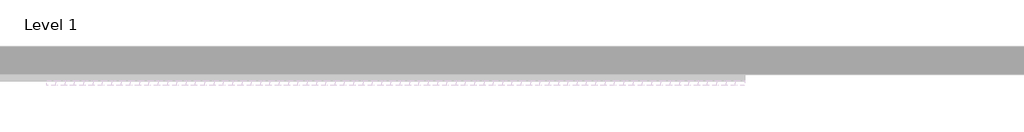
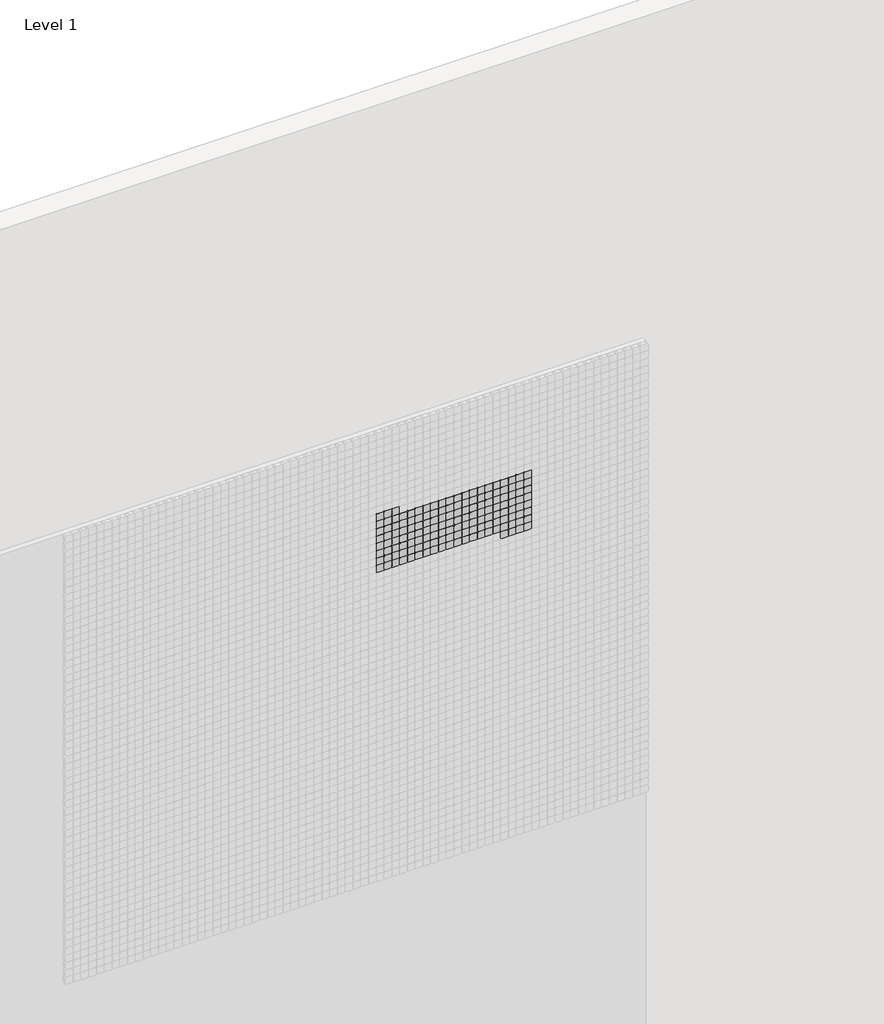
# One storey, part 50 of 71: 147 proxies.
"""IFC4 building model written with IfcOpenShell, lengths in millimetres."""

from ifc_helpers import new_model, si_unit, origin, place, context, project, spatial, transform, mapped, element, save
from components import generic_models_afde289c

model = new_model("IFC4")

# Units and contexts
model_context = context("Model", 3, world=origin())
ifc_project = project(units=[si_unit("LENGTHUNIT", "METRE", prefix="MILLI")], contexts=[model_context])

# Site, building, storey
site = spatial("IfcSite", under=ifc_project)
building = spatial("IfcBuilding", under=site)
storey = spatial("IfcBuildingStorey", under=building, Name="Level 1", Elevation=0.0)

# Proxies
placement = place(None, origin())
generic_models_shape = generic_models_afde289c(model_context)
element("IfcBuildingElementProxy", 1, Name="Pixel_M : Pixel_M", ObjectType="Pixel_M : Pixel_M", at=placement, inside=storey, context=model_context, shape_type="MappedRepresentation", body=[
    mapped(generic_models_shape, transform((8112.4280941, -75.0, 5416.3566215), x_axis=(1.0, 0.0, 0.0), y_axis=(0.0, 0.0, 1.0), z_axis=(0.0, -1.0, 0.0))),
])
element("IfcBuildingElementProxy", 2, Name="Pixel_M : Pixel_M", ObjectType="Pixel_M : Pixel_M", at=placement, inside=storey, context=model_context, shape_type="MappedRepresentation", body=[
    mapped(generic_models_shape, transform((8062.4280941, -75.0, 5416.3566215), x_axis=(1.0, 0.0, 0.0), y_axis=(0.0, 0.0, 1.0), z_axis=(0.0, -1.0, 0.0))),
])
element("IfcBuildingElementProxy", 3, Name="Pixel_M : Pixel_M", ObjectType="Pixel_M : Pixel_M", at=placement, inside=storey, context=model_context, shape_type="MappedRepresentation", body=[
    mapped(generic_models_shape, transform((8012.4280941, -75.0, 5416.3566215), x_axis=(1.0, 0.0, 0.0), y_axis=(0.0, 0.0, 1.0), z_axis=(0.0, -1.0, 0.0))),
])
element("IfcBuildingElementProxy", 4, Name="Pixel_M : Pixel_M", ObjectType="Pixel_M : Pixel_M", at=placement, inside=storey, context=model_context, shape_type="MappedRepresentation", body=[
    mapped(generic_models_shape, transform((8962.4280941, -75.0, 5366.3566215), x_axis=(1.0, 0.0, 0.0), y_axis=(0.0, 0.0, 1.0), z_axis=(0.0, -1.0, 0.0))),
])
element("IfcBuildingElementProxy", 5, Name="Pixel_M : Pixel_M", ObjectType="Pixel_M : Pixel_M", at=placement, inside=storey, context=model_context, shape_type="MappedRepresentation", body=[
    mapped(generic_models_shape, transform((8912.4280941, -75.0, 5366.3566215), x_axis=(1.0, 0.0, 0.0), y_axis=(0.0, 0.0, 1.0), z_axis=(0.0, -1.0, 0.0))),
])
element("IfcBuildingElementProxy", 6, Name="Pixel_M : Pixel_M", ObjectType="Pixel_M : Pixel_M", at=placement, inside=storey, context=model_context, shape_type="MappedRepresentation", body=[
    mapped(generic_models_shape, transform((8862.4280941, -75.0, 5366.3566215), x_axis=(1.0, 0.0, 0.0), y_axis=(0.0, 0.0, 1.0), z_axis=(0.0, -1.0, 0.0))),
])
element("IfcBuildingElementProxy", 7, Name="Pixel_M : Pixel_M", ObjectType="Pixel_M : Pixel_M", at=placement, inside=storey, context=model_context, shape_type="MappedRepresentation", body=[
    mapped(generic_models_shape, transform((8812.4280941, -75.0, 5366.3566215), x_axis=(1.0, 0.0, 0.0), y_axis=(0.0, 0.0, 1.0), z_axis=(0.0, -1.0, 0.0))),
])
element("IfcBuildingElementProxy", 8, Name="Pixel_M : Pixel_M", ObjectType="Pixel_M : Pixel_M", at=placement, inside=storey, context=model_context, shape_type="MappedRepresentation", body=[
    mapped(generic_models_shape, transform((8762.4280941, -75.0, 5366.3566215), x_axis=(1.0, 0.0, 0.0), y_axis=(0.0, 0.0, 1.0), z_axis=(0.0, -1.0, 0.0))),
])
element("IfcBuildingElementProxy", 9, Name="Pixel_M : Pixel_M", ObjectType="Pixel_M : Pixel_M", at=placement, inside=storey, context=model_context, shape_type="MappedRepresentation", body=[
    mapped(generic_models_shape, transform((8712.4280941, -75.0, 5366.3566215), x_axis=(1.0, 0.0, 0.0), y_axis=(0.0, 0.0, 1.0), z_axis=(0.0, -1.0, 0.0))),
])
element("IfcBuildingElementProxy", 10, Name="Pixel_M : Pixel_M", ObjectType="Pixel_M : Pixel_M", at=placement, inside=storey, context=model_context, shape_type="MappedRepresentation", body=[
    mapped(generic_models_shape, transform((8662.4280941, -75.0, 5366.3566215), x_axis=(1.0, 0.0, 0.0), y_axis=(0.0, 0.0, 1.0), z_axis=(0.0, -1.0, 0.0))),
])
element("IfcBuildingElementProxy", 11, Name="Pixel_M : Pixel_M", ObjectType="Pixel_M : Pixel_M", at=placement, inside=storey, context=model_context, shape_type="MappedRepresentation", body=[
    mapped(generic_models_shape, transform((8612.4280941, -75.0, 5366.3566215), x_axis=(1.0, 0.0, 0.0), y_axis=(0.0, 0.0, 1.0), z_axis=(0.0, -1.0, 0.0))),
])
element("IfcBuildingElementProxy", 12, Name="Pixel_M : Pixel_M", ObjectType="Pixel_M : Pixel_M", at=placement, inside=storey, context=model_context, shape_type="MappedRepresentation", body=[
    mapped(generic_models_shape, transform((8562.4280941, -75.0, 5366.3566215), x_axis=(1.0, 0.0, 0.0), y_axis=(0.0, 0.0, 1.0), z_axis=(0.0, -1.0, 0.0))),
])
element("IfcBuildingElementProxy", 13, Name="Pixel_M : Pixel_M", ObjectType="Pixel_M : Pixel_M", at=placement, inside=storey, context=model_context, shape_type="MappedRepresentation", body=[
    mapped(generic_models_shape, transform((8512.4280941, -75.0, 5366.3566215), x_axis=(1.0, 0.0, 0.0), y_axis=(0.0, 0.0, 1.0), z_axis=(0.0, -1.0, 0.0))),
])
element("IfcBuildingElementProxy", 14, Name="Pixel_M : Pixel_M", ObjectType="Pixel_M : Pixel_M", at=placement, inside=storey, context=model_context, shape_type="MappedRepresentation", body=[
    mapped(generic_models_shape, transform((8462.4280941, -75.0, 5366.3566215), x_axis=(1.0, 0.0, 0.0), y_axis=(0.0, 0.0, 1.0), z_axis=(0.0, -1.0, 0.0))),
])
element("IfcBuildingElementProxy", 15, Name="Pixel_M : Pixel_M", ObjectType="Pixel_M : Pixel_M", at=placement, inside=storey, context=model_context, shape_type="MappedRepresentation", body=[
    mapped(generic_models_shape, transform((8412.4280941, -75.0, 5366.3566215), x_axis=(1.0, 0.0, 0.0), y_axis=(0.0, 0.0, 1.0), z_axis=(0.0, -1.0, 0.0))),
])
element("IfcBuildingElementProxy", 16, Name="Pixel_M : Pixel_M", ObjectType="Pixel_M : Pixel_M", at=placement, inside=storey, context=model_context, shape_type="MappedRepresentation", body=[
    mapped(generic_models_shape, transform((8362.4280941, -75.0, 5366.3566215), x_axis=(1.0, 0.0, 0.0), y_axis=(0.0, 0.0, 1.0), z_axis=(0.0, -1.0, 0.0))),
])
element("IfcBuildingElementProxy", 17, Name="Pixel_M : Pixel_M", ObjectType="Pixel_M : Pixel_M", at=placement, inside=storey, context=model_context, shape_type="MappedRepresentation", body=[
    mapped(generic_models_shape, transform((8312.4280941, -75.0, 5366.3566215), x_axis=(1.0, 0.0, 0.0), y_axis=(0.0, 0.0, 1.0), z_axis=(0.0, -1.0, 0.0))),
])
element("IfcBuildingElementProxy", 18, Name="Pixel_M : Pixel_M", ObjectType="Pixel_M : Pixel_M", at=placement, inside=storey, context=model_context, shape_type="MappedRepresentation", body=[
    mapped(generic_models_shape, transform((8262.4280941, -75.0, 5366.3566215), x_axis=(1.0, 0.0, 0.0), y_axis=(0.0, 0.0, 1.0), z_axis=(0.0, -1.0, 0.0))),
])
element("IfcBuildingElementProxy", 19, Name="Pixel_M : Pixel_M", ObjectType="Pixel_M : Pixel_M", at=placement, inside=storey, context=model_context, shape_type="MappedRepresentation", body=[
    mapped(generic_models_shape, transform((8212.4280941, -75.0, 5366.3566215), x_axis=(1.0, 0.0, 0.0), y_axis=(0.0, 0.0, 1.0), z_axis=(0.0, -1.0, 0.0))),
])
element("IfcBuildingElementProxy", 20, Name="Pixel_M : Pixel_M", ObjectType="Pixel_M : Pixel_M", at=placement, inside=storey, context=model_context, shape_type="MappedRepresentation", body=[
    mapped(generic_models_shape, transform((8162.4280941, -75.0, 5366.3566215), x_axis=(1.0, 0.0, 0.0), y_axis=(0.0, 0.0, 1.0), z_axis=(0.0, -1.0, 0.0))),
])
element("IfcBuildingElementProxy", 21, Name="Pixel_M : Pixel_M", ObjectType="Pixel_M : Pixel_M", at=placement, inside=storey, context=model_context, shape_type="MappedRepresentation", body=[
    mapped(generic_models_shape, transform((8112.4280941, -75.0, 5366.3566215), x_axis=(1.0, 0.0, 0.0), y_axis=(0.0, 0.0, 1.0), z_axis=(0.0, -1.0, 0.0))),
])
element("IfcBuildingElementProxy", 22, Name="Pixel_M : Pixel_M", ObjectType="Pixel_M : Pixel_M", at=placement, inside=storey, context=model_context, shape_type="MappedRepresentation", body=[
    mapped(generic_models_shape, transform((8062.4280941, -75.0, 5366.3566215), x_axis=(1.0, 0.0, 0.0), y_axis=(0.0, 0.0, 1.0), z_axis=(0.0, -1.0, 0.0))),
])
element("IfcBuildingElementProxy", 23, Name="Pixel_M : Pixel_M", ObjectType="Pixel_M : Pixel_M", at=placement, inside=storey, context=model_context, shape_type="MappedRepresentation", body=[
    mapped(generic_models_shape, transform((8012.4280941, -75.0, 5366.3566215), x_axis=(1.0, 0.0, 0.0), y_axis=(0.0, 0.0, 1.0), z_axis=(0.0, -1.0, 0.0))),
])
element("IfcBuildingElementProxy", 24, Name="Pixel_M : Pixel_M", ObjectType="Pixel_M : Pixel_M", at=placement, inside=storey, context=model_context, shape_type="MappedRepresentation", body=[
    mapped(generic_models_shape, transform((8962.4280941, -75.0, 5316.3566215), x_axis=(1.0, 0.0, 0.0), y_axis=(0.0, 0.0, 1.0), z_axis=(0.0, -1.0, 0.0))),
])
element("IfcBuildingElementProxy", 25, Name="Pixel_M : Pixel_M", ObjectType="Pixel_M : Pixel_M", at=placement, inside=storey, context=model_context, shape_type="MappedRepresentation", body=[
    mapped(generic_models_shape, transform((8912.4280941, -75.0, 5316.3566215), x_axis=(1.0, 0.0, 0.0), y_axis=(0.0, 0.0, 1.0), z_axis=(0.0, -1.0, 0.0))),
])
element("IfcBuildingElementProxy", 26, Name="Pixel_M : Pixel_M", ObjectType="Pixel_M : Pixel_M", at=placement, inside=storey, context=model_context, shape_type="MappedRepresentation", body=[
    mapped(generic_models_shape, transform((8862.4280941, -75.0, 5316.3566215), x_axis=(1.0, 0.0, 0.0), y_axis=(0.0, 0.0, 1.0), z_axis=(0.0, -1.0, 0.0))),
])
element("IfcBuildingElementProxy", 27, Name="Pixel_M : Pixel_M", ObjectType="Pixel_M : Pixel_M", at=placement, inside=storey, context=model_context, shape_type="MappedRepresentation", body=[
    mapped(generic_models_shape, transform((8812.4280941, -75.0, 5316.3566215), x_axis=(1.0, 0.0, 0.0), y_axis=(0.0, 0.0, 1.0), z_axis=(0.0, -1.0, 0.0))),
])
element("IfcBuildingElementProxy", 28, Name="Pixel_M : Pixel_M", ObjectType="Pixel_M : Pixel_M", at=placement, inside=storey, context=model_context, shape_type="MappedRepresentation", body=[
    mapped(generic_models_shape, transform((8762.4280941, -75.0, 5316.3566215), x_axis=(1.0, 0.0, 0.0), y_axis=(0.0, 0.0, 1.0), z_axis=(0.0, -1.0, 0.0))),
])
element("IfcBuildingElementProxy", 29, Name="Pixel_M : Pixel_M", ObjectType="Pixel_M : Pixel_M", at=placement, inside=storey, context=model_context, shape_type="MappedRepresentation", body=[
    mapped(generic_models_shape, transform((8712.4280941, -75.0, 5316.3566215), x_axis=(1.0, 0.0, 0.0), y_axis=(0.0, 0.0, 1.0), z_axis=(0.0, -1.0, 0.0))),
])
element("IfcBuildingElementProxy", 30, Name="Pixel_M : Pixel_M", ObjectType="Pixel_M : Pixel_M", at=placement, inside=storey, context=model_context, shape_type="MappedRepresentation", body=[
    mapped(generic_models_shape, transform((8662.4280941, -75.0, 5316.3566215), x_axis=(1.0, 0.0, 0.0), y_axis=(0.0, 0.0, 1.0), z_axis=(0.0, -1.0, 0.0))),
])
element("IfcBuildingElementProxy", 31, Name="Pixel_M : Pixel_M", ObjectType="Pixel_M : Pixel_M", at=placement, inside=storey, context=model_context, shape_type="MappedRepresentation", body=[
    mapped(generic_models_shape, transform((8612.4280941, -75.0, 5316.3566215), x_axis=(1.0, 0.0, 0.0), y_axis=(0.0, 0.0, 1.0), z_axis=(0.0, -1.0, 0.0))),
])
element("IfcBuildingElementProxy", 32, Name="Pixel_M : Pixel_M", ObjectType="Pixel_M : Pixel_M", at=placement, inside=storey, context=model_context, shape_type="MappedRepresentation", body=[
    mapped(generic_models_shape, transform((8562.4280941, -75.0, 5316.3566215), x_axis=(1.0, 0.0, 0.0), y_axis=(0.0, 0.0, 1.0), z_axis=(0.0, -1.0, 0.0))),
])
element("IfcBuildingElementProxy", 33, Name="Pixel_M : Pixel_M", ObjectType="Pixel_M : Pixel_M", at=placement, inside=storey, context=model_context, shape_type="MappedRepresentation", body=[
    mapped(generic_models_shape, transform((8512.4280941, -75.0, 5316.3566215), x_axis=(1.0, 0.0, 0.0), y_axis=(0.0, 0.0, 1.0), z_axis=(0.0, -1.0, 0.0))),
])
element("IfcBuildingElementProxy", 34, Name="Pixel_M : Pixel_M", ObjectType="Pixel_M : Pixel_M", at=placement, inside=storey, context=model_context, shape_type="MappedRepresentation", body=[
    mapped(generic_models_shape, transform((8462.4280941, -75.0, 5316.3566215), x_axis=(1.0, 0.0, 0.0), y_axis=(0.0, 0.0, 1.0), z_axis=(0.0, -1.0, 0.0))),
])
element("IfcBuildingElementProxy", 35, Name="Pixel_M : Pixel_M", ObjectType="Pixel_M : Pixel_M", at=placement, inside=storey, context=model_context, shape_type="MappedRepresentation", body=[
    mapped(generic_models_shape, transform((8412.4280941, -75.0, 5316.3566215), x_axis=(1.0, 0.0, 0.0), y_axis=(0.0, 0.0, 1.0), z_axis=(0.0, -1.0, 0.0))),
])
element("IfcBuildingElementProxy", 36, Name="Pixel_M : Pixel_M", ObjectType="Pixel_M : Pixel_M", at=placement, inside=storey, context=model_context, shape_type="MappedRepresentation", body=[
    mapped(generic_models_shape, transform((8362.4280941, -75.0, 5316.3566215), x_axis=(1.0, 0.0, 0.0), y_axis=(0.0, 0.0, 1.0), z_axis=(0.0, -1.0, 0.0))),
])
element("IfcBuildingElementProxy", 37, Name="Pixel_M : Pixel_M", ObjectType="Pixel_M : Pixel_M", at=placement, inside=storey, context=model_context, shape_type="MappedRepresentation", body=[
    mapped(generic_models_shape, transform((8312.4280941, -75.0, 5316.3566215), x_axis=(1.0, 0.0, 0.0), y_axis=(0.0, 0.0, 1.0), z_axis=(0.0, -1.0, 0.0))),
])
element("IfcBuildingElementProxy", 38, Name="Pixel_M : Pixel_M", ObjectType="Pixel_M : Pixel_M", at=placement, inside=storey, context=model_context, shape_type="MappedRepresentation", body=[
    mapped(generic_models_shape, transform((8262.4280941, -75.0, 5316.3566215), x_axis=(1.0, 0.0, 0.0), y_axis=(0.0, 0.0, 1.0), z_axis=(0.0, -1.0, 0.0))),
])
element("IfcBuildingElementProxy", 39, Name="Pixel_M : Pixel_M", ObjectType="Pixel_M : Pixel_M", at=placement, inside=storey, context=model_context, shape_type="MappedRepresentation", body=[
    mapped(generic_models_shape, transform((8212.4280941, -75.0, 5316.3566215), x_axis=(1.0, 0.0, 0.0), y_axis=(0.0, 0.0, 1.0), z_axis=(0.0, -1.0, 0.0))),
])
element("IfcBuildingElementProxy", 40, Name="Pixel_M : Pixel_M", ObjectType="Pixel_M : Pixel_M", at=placement, inside=storey, context=model_context, shape_type="MappedRepresentation", body=[
    mapped(generic_models_shape, transform((8162.4280941, -75.0, 5316.3566215), x_axis=(1.0, 0.0, 0.0), y_axis=(0.0, 0.0, 1.0), z_axis=(0.0, -1.0, 0.0))),
])
element("IfcBuildingElementProxy", 41, Name="Pixel_M : Pixel_M", ObjectType="Pixel_M : Pixel_M", at=placement, inside=storey, context=model_context, shape_type="MappedRepresentation", body=[
    mapped(generic_models_shape, transform((8112.4280941, -75.0, 5316.3566215), x_axis=(1.0, 0.0, 0.0), y_axis=(0.0, 0.0, 1.0), z_axis=(0.0, -1.0, 0.0))),
])
element("IfcBuildingElementProxy", 42, Name="Pixel_M : Pixel_M", ObjectType="Pixel_M : Pixel_M", at=placement, inside=storey, context=model_context, shape_type="MappedRepresentation", body=[
    mapped(generic_models_shape, transform((8062.4280941, -75.0, 5316.3566215), x_axis=(1.0, 0.0, 0.0), y_axis=(0.0, 0.0, 1.0), z_axis=(0.0, -1.0, 0.0))),
])
element("IfcBuildingElementProxy", 43, Name="Pixel_M : Pixel_M", ObjectType="Pixel_M : Pixel_M", at=placement, inside=storey, context=model_context, shape_type="MappedRepresentation", body=[
    mapped(generic_models_shape, transform((8012.4280941, -75.0, 5316.3566215), x_axis=(1.0, 0.0, 0.0), y_axis=(0.0, 0.0, 1.0), z_axis=(0.0, -1.0, 0.0))),
])
element("IfcBuildingElementProxy", 44, Name="Pixel_M : Pixel_M", ObjectType="Pixel_M : Pixel_M", at=placement, inside=storey, context=model_context, shape_type="MappedRepresentation", body=[
    mapped(generic_models_shape, transform((8962.4280941, -75.0, 5266.3566215), x_axis=(1.0, 0.0, 0.0), y_axis=(0.0, 0.0, 1.0), z_axis=(0.0, -1.0, 0.0))),
])
element("IfcBuildingElementProxy", 45, Name="Pixel_M : Pixel_M", ObjectType="Pixel_M : Pixel_M", at=placement, inside=storey, context=model_context, shape_type="MappedRepresentation", body=[
    mapped(generic_models_shape, transform((8912.4280941, -75.0, 5266.3566215), x_axis=(1.0, 0.0, 0.0), y_axis=(0.0, 0.0, 1.0), z_axis=(0.0, -1.0, 0.0))),
])
element("IfcBuildingElementProxy", 46, Name="Pixel_M : Pixel_M", ObjectType="Pixel_M : Pixel_M", at=placement, inside=storey, context=model_context, shape_type="MappedRepresentation", body=[
    mapped(generic_models_shape, transform((8862.4280941, -75.0, 5266.3566215), x_axis=(1.0, 0.0, 0.0), y_axis=(0.0, 0.0, 1.0), z_axis=(0.0, -1.0, 0.0))),
])
element("IfcBuildingElementProxy", 47, Name="Pixel_M : Pixel_M", ObjectType="Pixel_M : Pixel_M", at=placement, inside=storey, context=model_context, shape_type="MappedRepresentation", body=[
    mapped(generic_models_shape, transform((8812.4280941, -75.0, 5266.3566215), x_axis=(1.0, 0.0, 0.0), y_axis=(0.0, 0.0, 1.0), z_axis=(0.0, -1.0, 0.0))),
])
element("IfcBuildingElementProxy", 48, Name="Pixel_M : Pixel_M", ObjectType="Pixel_M : Pixel_M", at=placement, inside=storey, context=model_context, shape_type="MappedRepresentation", body=[
    mapped(generic_models_shape, transform((8762.4280941, -75.0, 5266.3566215), x_axis=(1.0, 0.0, 0.0), y_axis=(0.0, 0.0, 1.0), z_axis=(0.0, -1.0, 0.0))),
])
element("IfcBuildingElementProxy", 49, Name="Pixel_M : Pixel_M", ObjectType="Pixel_M : Pixel_M", at=placement, inside=storey, context=model_context, shape_type="MappedRepresentation", body=[
    mapped(generic_models_shape, transform((8712.4280941, -75.0, 5266.3566215), x_axis=(1.0, 0.0, 0.0), y_axis=(0.0, 0.0, 1.0), z_axis=(0.0, -1.0, 0.0))),
])
element("IfcBuildingElementProxy", 50, Name="Pixel_M : Pixel_M", ObjectType="Pixel_M : Pixel_M", at=placement, inside=storey, context=model_context, shape_type="MappedRepresentation", body=[
    mapped(generic_models_shape, transform((8662.4280941, -75.0, 5266.3566215), x_axis=(1.0, 0.0, 0.0), y_axis=(0.0, 0.0, 1.0), z_axis=(0.0, -1.0, 0.0))),
])
element("IfcBuildingElementProxy", 51, Name="Pixel_M : Pixel_M", ObjectType="Pixel_M : Pixel_M", at=placement, inside=storey, context=model_context, shape_type="MappedRepresentation", body=[
    mapped(generic_models_shape, transform((8612.4280941, -75.0, 5266.3566215), x_axis=(1.0, 0.0, 0.0), y_axis=(0.0, 0.0, 1.0), z_axis=(0.0, -1.0, 0.0))),
])
element("IfcBuildingElementProxy", 52, Name="Pixel_M : Pixel_M", ObjectType="Pixel_M : Pixel_M", at=placement, inside=storey, context=model_context, shape_type="MappedRepresentation", body=[
    mapped(generic_models_shape, transform((8562.4280941, -75.0, 5266.3566215), x_axis=(1.0, 0.0, 0.0), y_axis=(0.0, 0.0, 1.0), z_axis=(0.0, -1.0, 0.0))),
])
element("IfcBuildingElementProxy", 53, Name="Pixel_M : Pixel_M", ObjectType="Pixel_M : Pixel_M", at=placement, inside=storey, context=model_context, shape_type="MappedRepresentation", body=[
    mapped(generic_models_shape, transform((8512.4280941, -75.0, 5266.3566215), x_axis=(1.0, 0.0, 0.0), y_axis=(0.0, 0.0, 1.0), z_axis=(0.0, -1.0, 0.0))),
])
element("IfcBuildingElementProxy", 54, Name="Pixel_M : Pixel_M", ObjectType="Pixel_M : Pixel_M", at=placement, inside=storey, context=model_context, shape_type="MappedRepresentation", body=[
    mapped(generic_models_shape, transform((8462.4280941, -75.0, 5266.3566215), x_axis=(1.0, 0.0, 0.0), y_axis=(0.0, 0.0, 1.0), z_axis=(0.0, -1.0, 0.0))),
])
element("IfcBuildingElementProxy", 55, Name="Pixel_M : Pixel_M", ObjectType="Pixel_M : Pixel_M", at=placement, inside=storey, context=model_context, shape_type="MappedRepresentation", body=[
    mapped(generic_models_shape, transform((8412.4280941, -75.0, 5266.3566215), x_axis=(1.0, 0.0, 0.0), y_axis=(0.0, 0.0, 1.0), z_axis=(0.0, -1.0, 0.0))),
])
element("IfcBuildingElementProxy", 56, Name="Pixel_M : Pixel_M", ObjectType="Pixel_M : Pixel_M", at=placement, inside=storey, context=model_context, shape_type="MappedRepresentation", body=[
    mapped(generic_models_shape, transform((8362.4280941, -75.0, 5266.3566215), x_axis=(1.0, 0.0, 0.0), y_axis=(0.0, 0.0, 1.0), z_axis=(0.0, -1.0, 0.0))),
])
element("IfcBuildingElementProxy", 57, Name="Pixel_M : Pixel_M", ObjectType="Pixel_M : Pixel_M", at=placement, inside=storey, context=model_context, shape_type="MappedRepresentation", body=[
    mapped(generic_models_shape, transform((8312.4280941, -75.0, 5266.3566215), x_axis=(1.0, 0.0, 0.0), y_axis=(0.0, 0.0, 1.0), z_axis=(0.0, -1.0, 0.0))),
])
element("IfcBuildingElementProxy", 58, Name="Pixel_M : Pixel_M", ObjectType="Pixel_M : Pixel_M", at=placement, inside=storey, context=model_context, shape_type="MappedRepresentation", body=[
    mapped(generic_models_shape, transform((8262.4280941, -75.0, 5266.3566215), x_axis=(1.0, 0.0, 0.0), y_axis=(0.0, 0.0, 1.0), z_axis=(0.0, -1.0, 0.0))),
])
element("IfcBuildingElementProxy", 59, Name="Pixel_M : Pixel_M", ObjectType="Pixel_M : Pixel_M", at=placement, inside=storey, context=model_context, shape_type="MappedRepresentation", body=[
    mapped(generic_models_shape, transform((8212.4280941, -75.0, 5266.3566215), x_axis=(1.0, 0.0, 0.0), y_axis=(0.0, 0.0, 1.0), z_axis=(0.0, -1.0, 0.0))),
])
element("IfcBuildingElementProxy", 60, Name="Pixel_M : Pixel_M", ObjectType="Pixel_M : Pixel_M", at=placement, inside=storey, context=model_context, shape_type="MappedRepresentation", body=[
    mapped(generic_models_shape, transform((8162.4280941, -75.0, 5266.3566215), x_axis=(1.0, 0.0, 0.0), y_axis=(0.0, 0.0, 1.0), z_axis=(0.0, -1.0, 0.0))),
])
element("IfcBuildingElementProxy", 61, Name="Pixel_M : Pixel_M", ObjectType="Pixel_M : Pixel_M", at=placement, inside=storey, context=model_context, shape_type="MappedRepresentation", body=[
    mapped(generic_models_shape, transform((8112.4280941, -75.0, 5266.3566215), x_axis=(1.0, 0.0, 0.0), y_axis=(0.0, 0.0, 1.0), z_axis=(0.0, -1.0, 0.0))),
])
element("IfcBuildingElementProxy", 62, Name="Pixel_M : Pixel_M", ObjectType="Pixel_M : Pixel_M", at=placement, inside=storey, context=model_context, shape_type="MappedRepresentation", body=[
    mapped(generic_models_shape, transform((8062.4280941, -75.0, 5266.3566215), x_axis=(1.0, 0.0, 0.0), y_axis=(0.0, 0.0, 1.0), z_axis=(0.0, -1.0, 0.0))),
])
element("IfcBuildingElementProxy", 63, Name="Pixel_M : Pixel_M", ObjectType="Pixel_M : Pixel_M", at=placement, inside=storey, context=model_context, shape_type="MappedRepresentation", body=[
    mapped(generic_models_shape, transform((8012.4280941, -75.0, 5266.3566215), x_axis=(1.0, 0.0, 0.0), y_axis=(0.0, 0.0, 1.0), z_axis=(0.0, -1.0, 0.0))),
])
element("IfcBuildingElementProxy", 64, Name="Pixel_M : Pixel_M", ObjectType="Pixel_M : Pixel_M", at=placement, inside=storey, context=model_context, shape_type="MappedRepresentation", body=[
    mapped(generic_models_shape, transform((8962.4280941, -75.0, 5216.3566215), x_axis=(1.0, 0.0, 0.0), y_axis=(0.0, 0.0, 1.0), z_axis=(0.0, -1.0, 0.0))),
])
element("IfcBuildingElementProxy", 65, Name="Pixel_M : Pixel_M", ObjectType="Pixel_M : Pixel_M", at=placement, inside=storey, context=model_context, shape_type="MappedRepresentation", body=[
    mapped(generic_models_shape, transform((8912.4280941, -75.0, 5216.3566215), x_axis=(1.0, 0.0, 0.0), y_axis=(0.0, 0.0, 1.0), z_axis=(0.0, -1.0, 0.0))),
])
element("IfcBuildingElementProxy", 66, Name="Pixel_M : Pixel_M", ObjectType="Pixel_M : Pixel_M", at=placement, inside=storey, context=model_context, shape_type="MappedRepresentation", body=[
    mapped(generic_models_shape, transform((8862.4280941, -75.0, 5216.3566215), x_axis=(1.0, 0.0, 0.0), y_axis=(0.0, 0.0, 1.0), z_axis=(0.0, -1.0, 0.0))),
])
element("IfcBuildingElementProxy", 67, Name="Pixel_M : Pixel_M", ObjectType="Pixel_M : Pixel_M", at=placement, inside=storey, context=model_context, shape_type="MappedRepresentation", body=[
    mapped(generic_models_shape, transform((8812.4280941, -75.0, 5216.3566215), x_axis=(1.0, 0.0, 0.0), y_axis=(0.0, 0.0, 1.0), z_axis=(0.0, -1.0, 0.0))),
])
element("IfcBuildingElementProxy", 68, Name="Pixel_M : Pixel_M", ObjectType="Pixel_M : Pixel_M", at=placement, inside=storey, context=model_context, shape_type="MappedRepresentation", body=[
    mapped(generic_models_shape, transform((8762.4280941, -75.0, 5216.3566215), x_axis=(1.0, 0.0, 0.0), y_axis=(0.0, 0.0, 1.0), z_axis=(0.0, -1.0, 0.0))),
])
element("IfcBuildingElementProxy", 69, Name="Pixel_M : Pixel_M", ObjectType="Pixel_M : Pixel_M", at=placement, inside=storey, context=model_context, shape_type="MappedRepresentation", body=[
    mapped(generic_models_shape, transform((8712.4280941, -75.0, 5216.3566215), x_axis=(1.0, 0.0, 0.0), y_axis=(0.0, 0.0, 1.0), z_axis=(0.0, -1.0, 0.0))),
])
element("IfcBuildingElementProxy", 70, Name="Pixel_M : Pixel_M", ObjectType="Pixel_M : Pixel_M", at=placement, inside=storey, context=model_context, shape_type="MappedRepresentation", body=[
    mapped(generic_models_shape, transform((8662.4280941, -75.0, 5216.3566215), x_axis=(1.0, 0.0, 0.0), y_axis=(0.0, 0.0, 1.0), z_axis=(0.0, -1.0, 0.0))),
])
element("IfcBuildingElementProxy", 71, Name="Pixel_M : Pixel_M", ObjectType="Pixel_M : Pixel_M", at=placement, inside=storey, context=model_context, shape_type="MappedRepresentation", body=[
    mapped(generic_models_shape, transform((8612.4280941, -75.0, 5216.3566215), x_axis=(1.0, 0.0, 0.0), y_axis=(0.0, 0.0, 1.0), z_axis=(0.0, -1.0, 0.0))),
])
element("IfcBuildingElementProxy", 72, Name="Pixel_M : Pixel_M", ObjectType="Pixel_M : Pixel_M", at=placement, inside=storey, context=model_context, shape_type="MappedRepresentation", body=[
    mapped(generic_models_shape, transform((8562.4280941, -75.0, 5216.3566215), x_axis=(1.0, 0.0, 0.0), y_axis=(0.0, 0.0, 1.0), z_axis=(0.0, -1.0, 0.0))),
])
element("IfcBuildingElementProxy", 73, Name="Pixel_M : Pixel_M", ObjectType="Pixel_M : Pixel_M", at=placement, inside=storey, context=model_context, shape_type="MappedRepresentation", body=[
    mapped(generic_models_shape, transform((8512.4280941, -75.0, 5216.3566215), x_axis=(1.0, 0.0, 0.0), y_axis=(0.0, 0.0, 1.0), z_axis=(0.0, -1.0, 0.0))),
])
element("IfcBuildingElementProxy", 74, Name="Pixel_M : Pixel_M", ObjectType="Pixel_M : Pixel_M", at=placement, inside=storey, context=model_context, shape_type="MappedRepresentation", body=[
    mapped(generic_models_shape, transform((8462.4280941, -75.0, 5216.3566215), x_axis=(1.0, 0.0, 0.0), y_axis=(0.0, 0.0, 1.0), z_axis=(0.0, -1.0, 0.0))),
])
element("IfcBuildingElementProxy", 75, Name="Pixel_M : Pixel_M", ObjectType="Pixel_M : Pixel_M", at=placement, inside=storey, context=model_context, shape_type="MappedRepresentation", body=[
    mapped(generic_models_shape, transform((8412.4280941, -75.0, 5216.3566215), x_axis=(1.0, 0.0, 0.0), y_axis=(0.0, 0.0, 1.0), z_axis=(0.0, -1.0, 0.0))),
])
element("IfcBuildingElementProxy", 76, Name="Pixel_M : Pixel_M", ObjectType="Pixel_M : Pixel_M", at=placement, inside=storey, context=model_context, shape_type="MappedRepresentation", body=[
    mapped(generic_models_shape, transform((8362.4280941, -75.0, 5216.3566215), x_axis=(1.0, 0.0, 0.0), y_axis=(0.0, 0.0, 1.0), z_axis=(0.0, -1.0, 0.0))),
])
element("IfcBuildingElementProxy", 77, Name="Pixel_M : Pixel_M", ObjectType="Pixel_M : Pixel_M", at=placement, inside=storey, context=model_context, shape_type="MappedRepresentation", body=[
    mapped(generic_models_shape, transform((8312.4280941, -75.0, 5216.3566215), x_axis=(1.0, 0.0, 0.0), y_axis=(0.0, 0.0, 1.0), z_axis=(0.0, -1.0, 0.0))),
])
element("IfcBuildingElementProxy", 78, Name="Pixel_M : Pixel_M", ObjectType="Pixel_M : Pixel_M", at=placement, inside=storey, context=model_context, shape_type="MappedRepresentation", body=[
    mapped(generic_models_shape, transform((8262.4280941, -75.0, 5216.3566215), x_axis=(1.0, 0.0, 0.0), y_axis=(0.0, 0.0, 1.0), z_axis=(0.0, -1.0, 0.0))),
])
element("IfcBuildingElementProxy", 79, Name="Pixel_M : Pixel_M", ObjectType="Pixel_M : Pixel_M", at=placement, inside=storey, context=model_context, shape_type="MappedRepresentation", body=[
    mapped(generic_models_shape, transform((8212.4280941, -75.0, 5216.3566215), x_axis=(1.0, 0.0, 0.0), y_axis=(0.0, 0.0, 1.0), z_axis=(0.0, -1.0, 0.0))),
])
element("IfcBuildingElementProxy", 80, Name="Pixel_M : Pixel_M", ObjectType="Pixel_M : Pixel_M", at=placement, inside=storey, context=model_context, shape_type="MappedRepresentation", body=[
    mapped(generic_models_shape, transform((8162.4280941, -75.0, 5216.3566215), x_axis=(1.0, 0.0, 0.0), y_axis=(0.0, 0.0, 1.0), z_axis=(0.0, -1.0, 0.0))),
])
element("IfcBuildingElementProxy", 81, Name="Pixel_M : Pixel_M", ObjectType="Pixel_M : Pixel_M", at=placement, inside=storey, context=model_context, shape_type="MappedRepresentation", body=[
    mapped(generic_models_shape, transform((8112.4280941, -75.0, 5216.3566215), x_axis=(1.0, 0.0, 0.0), y_axis=(0.0, 0.0, 1.0), z_axis=(0.0, -1.0, 0.0))),
])
element("IfcBuildingElementProxy", 82, Name="Pixel_M : Pixel_M", ObjectType="Pixel_M : Pixel_M", at=placement, inside=storey, context=model_context, shape_type="MappedRepresentation", body=[
    mapped(generic_models_shape, transform((8062.4280941, -75.0, 5216.3566215), x_axis=(1.0, 0.0, 0.0), y_axis=(0.0, 0.0, 1.0), z_axis=(0.0, -1.0, 0.0))),
])
element("IfcBuildingElementProxy", 83, Name="Pixel_M : Pixel_M", ObjectType="Pixel_M : Pixel_M", at=placement, inside=storey, context=model_context, shape_type="MappedRepresentation", body=[
    mapped(generic_models_shape, transform((8012.4280941, -75.0, 5216.3566215), x_axis=(1.0, 0.0, 0.0), y_axis=(0.0, 0.0, 1.0), z_axis=(0.0, -1.0, 0.0))),
])
element("IfcBuildingElementProxy", 84, Name="Pixel_M : Pixel_M", ObjectType="Pixel_M : Pixel_M", at=placement, inside=storey, context=model_context, shape_type="MappedRepresentation", body=[
    mapped(generic_models_shape, transform((8962.4280941, -75.0, 5166.3566215), x_axis=(1.0, 0.0, 0.0), y_axis=(0.0, 0.0, 1.0), z_axis=(0.0, -1.0, 0.0))),
])
element("IfcBuildingElementProxy", 85, Name="Pixel_M : Pixel_M", ObjectType="Pixel_M : Pixel_M", at=placement, inside=storey, context=model_context, shape_type="MappedRepresentation", body=[
    mapped(generic_models_shape, transform((8912.4280941, -75.0, 5166.3566215), x_axis=(1.0, 0.0, 0.0), y_axis=(0.0, 0.0, 1.0), z_axis=(0.0, -1.0, 0.0))),
])
element("IfcBuildingElementProxy", 86, Name="Pixel_M : Pixel_M", ObjectType="Pixel_M : Pixel_M", at=placement, inside=storey, context=model_context, shape_type="MappedRepresentation", body=[
    mapped(generic_models_shape, transform((8862.4280941, -75.0, 5166.3566215), x_axis=(1.0, 0.0, 0.0), y_axis=(0.0, 0.0, 1.0), z_axis=(0.0, -1.0, 0.0))),
])
element("IfcBuildingElementProxy", 87, Name="Pixel_M : Pixel_M", ObjectType="Pixel_M : Pixel_M", at=placement, inside=storey, context=model_context, shape_type="MappedRepresentation", body=[
    mapped(generic_models_shape, transform((8812.4280941, -75.0, 5166.3566215), x_axis=(1.0, 0.0, 0.0), y_axis=(0.0, 0.0, 1.0), z_axis=(0.0, -1.0, 0.0))),
])
element("IfcBuildingElementProxy", 88, Name="Pixel_M : Pixel_M", ObjectType="Pixel_M : Pixel_M", at=placement, inside=storey, context=model_context, shape_type="MappedRepresentation", body=[
    mapped(generic_models_shape, transform((8762.4280941, -75.0, 5166.3566215), x_axis=(1.0, 0.0, 0.0), y_axis=(0.0, 0.0, 1.0), z_axis=(0.0, -1.0, 0.0))),
])
element("IfcBuildingElementProxy", 89, Name="Pixel_M : Pixel_M", ObjectType="Pixel_M : Pixel_M", at=placement, inside=storey, context=model_context, shape_type="MappedRepresentation", body=[
    mapped(generic_models_shape, transform((8712.4280941, -75.0, 5166.3566215), x_axis=(1.0, 0.0, 0.0), y_axis=(0.0, 0.0, 1.0), z_axis=(0.0, -1.0, 0.0))),
])
element("IfcBuildingElementProxy", 90, Name="Pixel_M : Pixel_M", ObjectType="Pixel_M : Pixel_M", at=placement, inside=storey, context=model_context, shape_type="MappedRepresentation", body=[
    mapped(generic_models_shape, transform((8662.4280941, -75.0, 5166.3566215), x_axis=(1.0, 0.0, 0.0), y_axis=(0.0, 0.0, 1.0), z_axis=(0.0, -1.0, 0.0))),
])
element("IfcBuildingElementProxy", 91, Name="Pixel_M : Pixel_M", ObjectType="Pixel_M : Pixel_M", at=placement, inside=storey, context=model_context, shape_type="MappedRepresentation", body=[
    mapped(generic_models_shape, transform((8612.4280941, -75.0, 5166.3566215), x_axis=(1.0, 0.0, 0.0), y_axis=(0.0, 0.0, 1.0), z_axis=(0.0, -1.0, 0.0))),
])
element("IfcBuildingElementProxy", 92, Name="Pixel_M : Pixel_M", ObjectType="Pixel_M : Pixel_M", at=placement, inside=storey, context=model_context, shape_type="MappedRepresentation", body=[
    mapped(generic_models_shape, transform((8562.4280941, -75.0, 5166.3566215), x_axis=(1.0, 0.0, 0.0), y_axis=(0.0, 0.0, 1.0), z_axis=(0.0, -1.0, 0.0))),
])
element("IfcBuildingElementProxy", 93, Name="Pixel_M : Pixel_M", ObjectType="Pixel_M : Pixel_M", at=placement, inside=storey, context=model_context, shape_type="MappedRepresentation", body=[
    mapped(generic_models_shape, transform((8512.4280941, -75.0, 5166.3566215), x_axis=(1.0, 0.0, 0.0), y_axis=(0.0, 0.0, 1.0), z_axis=(0.0, -1.0, 0.0))),
])
element("IfcBuildingElementProxy", 94, Name="Pixel_M : Pixel_M", ObjectType="Pixel_M : Pixel_M", at=placement, inside=storey, context=model_context, shape_type="MappedRepresentation", body=[
    mapped(generic_models_shape, transform((8462.4280941, -75.0, 5166.3566215), x_axis=(1.0, 0.0, 0.0), y_axis=(0.0, 0.0, 1.0), z_axis=(0.0, -1.0, 0.0))),
])
element("IfcBuildingElementProxy", 95, Name="Pixel_M : Pixel_M", ObjectType="Pixel_M : Pixel_M", at=placement, inside=storey, context=model_context, shape_type="MappedRepresentation", body=[
    mapped(generic_models_shape, transform((8412.4280941, -75.0, 5166.3566215), x_axis=(1.0, 0.0, 0.0), y_axis=(0.0, 0.0, 1.0), z_axis=(0.0, -1.0, 0.0))),
])
element("IfcBuildingElementProxy", 96, Name="Pixel_M : Pixel_M", ObjectType="Pixel_M : Pixel_M", at=placement, inside=storey, context=model_context, shape_type="MappedRepresentation", body=[
    mapped(generic_models_shape, transform((8362.4280941, -75.0, 5166.3566215), x_axis=(1.0, 0.0, 0.0), y_axis=(0.0, 0.0, 1.0), z_axis=(0.0, -1.0, 0.0))),
])
element("IfcBuildingElementProxy", 97, Name="Pixel_M : Pixel_M", ObjectType="Pixel_M : Pixel_M", at=placement, inside=storey, context=model_context, shape_type="MappedRepresentation", body=[
    mapped(generic_models_shape, transform((8312.4280941, -75.0, 5166.3566215), x_axis=(1.0, 0.0, 0.0), y_axis=(0.0, 0.0, 1.0), z_axis=(0.0, -1.0, 0.0))),
])
element("IfcBuildingElementProxy", 98, Name="Pixel_M : Pixel_M", ObjectType="Pixel_M : Pixel_M", at=placement, inside=storey, context=model_context, shape_type="MappedRepresentation", body=[
    mapped(generic_models_shape, transform((8262.4280941, -75.0, 5166.3566215), x_axis=(1.0, 0.0, 0.0), y_axis=(0.0, 0.0, 1.0), z_axis=(0.0, -1.0, 0.0))),
])
element("IfcBuildingElementProxy", 99, Name="Pixel_M : Pixel_M", ObjectType="Pixel_M : Pixel_M", at=placement, inside=storey, context=model_context, shape_type="MappedRepresentation", body=[
    mapped(generic_models_shape, transform((8212.4280941, -75.0, 5166.3566215), x_axis=(1.0, 0.0, 0.0), y_axis=(0.0, 0.0, 1.0), z_axis=(0.0, -1.0, 0.0))),
])
element("IfcBuildingElementProxy", 100, Name="Pixel_M : Pixel_M", ObjectType="Pixel_M : Pixel_M", at=placement, inside=storey, context=model_context, shape_type="MappedRepresentation", body=[
    mapped(generic_models_shape, transform((8162.4280941, -75.0, 5166.3566215), x_axis=(1.0, 0.0, 0.0), y_axis=(0.0, 0.0, 1.0), z_axis=(0.0, -1.0, 0.0))),
])
element("IfcBuildingElementProxy", 101, Name="Pixel_M : Pixel_M", ObjectType="Pixel_M : Pixel_M", at=placement, inside=storey, context=model_context, shape_type="MappedRepresentation", body=[
    mapped(generic_models_shape, transform((8112.4280941, -75.0, 5166.3566215), x_axis=(1.0, 0.0, 0.0), y_axis=(0.0, 0.0, 1.0), z_axis=(0.0, -1.0, 0.0))),
])
element("IfcBuildingElementProxy", 102, Name="Pixel_M : Pixel_M", ObjectType="Pixel_M : Pixel_M", at=placement, inside=storey, context=model_context, shape_type="MappedRepresentation", body=[
    mapped(generic_models_shape, transform((8062.4280941, -75.0, 5166.3566215), x_axis=(1.0, 0.0, 0.0), y_axis=(0.0, 0.0, 1.0), z_axis=(0.0, -1.0, 0.0))),
])
element("IfcBuildingElementProxy", 103, Name="Pixel_M : Pixel_M", ObjectType="Pixel_M : Pixel_M", at=placement, inside=storey, context=model_context, shape_type="MappedRepresentation", body=[
    mapped(generic_models_shape, transform((8012.4280941, -75.0, 5166.3566215), x_axis=(1.0, 0.0, 0.0), y_axis=(0.0, 0.0, 1.0), z_axis=(0.0, -1.0, 0.0))),
])
element("IfcBuildingElementProxy", 104, Name="Pixel_M : Pixel_M", ObjectType="Pixel_M : Pixel_M", at=placement, inside=storey, context=model_context, shape_type="MappedRepresentation", body=[
    mapped(generic_models_shape, transform((8962.4280941, -75.0, 5116.3566215), x_axis=(1.0, 0.0, 0.0), y_axis=(0.0, 0.0, 1.0), z_axis=(0.0, -1.0, 0.0))),
])
element("IfcBuildingElementProxy", 105, Name="Pixel_M : Pixel_M", ObjectType="Pixel_M : Pixel_M", at=placement, inside=storey, context=model_context, shape_type="MappedRepresentation", body=[
    mapped(generic_models_shape, transform((8912.4280941, -75.0, 5116.3566215), x_axis=(1.0, 0.0, 0.0), y_axis=(0.0, 0.0, 1.0), z_axis=(0.0, -1.0, 0.0))),
])
element("IfcBuildingElementProxy", 106, Name="Pixel_M : Pixel_M", ObjectType="Pixel_M : Pixel_M", at=placement, inside=storey, context=model_context, shape_type="MappedRepresentation", body=[
    mapped(generic_models_shape, transform((8862.4280941, -75.0, 5116.3566215), x_axis=(1.0, 0.0, 0.0), y_axis=(0.0, 0.0, 1.0), z_axis=(0.0, -1.0, 0.0))),
])
element("IfcBuildingElementProxy", 107, Name="Pixel_M : Pixel_M", ObjectType="Pixel_M : Pixel_M", at=placement, inside=storey, context=model_context, shape_type="MappedRepresentation", body=[
    mapped(generic_models_shape, transform((8812.4280941, -75.0, 5116.3566215), x_axis=(1.0, 0.0, 0.0), y_axis=(0.0, 0.0, 1.0), z_axis=(0.0, -1.0, 0.0))),
])
element("IfcBuildingElementProxy", 108, Name="Pixel_M : Pixel_M", ObjectType="Pixel_M : Pixel_M", at=placement, inside=storey, context=model_context, shape_type="MappedRepresentation", body=[
    mapped(generic_models_shape, transform((8762.4280941, -75.0, 5116.3566215), x_axis=(1.0, 0.0, 0.0), y_axis=(0.0, 0.0, 1.0), z_axis=(0.0, -1.0, 0.0))),
])
element("IfcBuildingElementProxy", 109, Name="Pixel_M : Pixel_M", ObjectType="Pixel_M : Pixel_M", at=placement, inside=storey, context=model_context, shape_type="MappedRepresentation", body=[
    mapped(generic_models_shape, transform((8712.4280941, -75.0, 5116.3566215), x_axis=(1.0, 0.0, 0.0), y_axis=(0.0, 0.0, 1.0), z_axis=(0.0, -1.0, 0.0))),
])
element("IfcBuildingElementProxy", 110, Name="Pixel_M : Pixel_M", ObjectType="Pixel_M : Pixel_M", at=placement, inside=storey, context=model_context, shape_type="MappedRepresentation", body=[
    mapped(generic_models_shape, transform((8662.4280941, -75.0, 5116.3566215), x_axis=(1.0, 0.0, 0.0), y_axis=(0.0, 0.0, 1.0), z_axis=(0.0, -1.0, 0.0))),
])
element("IfcBuildingElementProxy", 111, Name="Pixel_M : Pixel_M", ObjectType="Pixel_M : Pixel_M", at=placement, inside=storey, context=model_context, shape_type="MappedRepresentation", body=[
    mapped(generic_models_shape, transform((8612.4280941, -75.0, 5116.3566215), x_axis=(1.0, 0.0, 0.0), y_axis=(0.0, 0.0, 1.0), z_axis=(0.0, -1.0, 0.0))),
])
element("IfcBuildingElementProxy", 112, Name="Pixel_M : Pixel_M", ObjectType="Pixel_M : Pixel_M", at=placement, inside=storey, context=model_context, shape_type="MappedRepresentation", body=[
    mapped(generic_models_shape, transform((8562.4280941, -75.0, 5116.3566215), x_axis=(1.0, 0.0, 0.0), y_axis=(0.0, 0.0, 1.0), z_axis=(0.0, -1.0, 0.0))),
])
element("IfcBuildingElementProxy", 113, Name="Pixel_M : Pixel_M", ObjectType="Pixel_M : Pixel_M", at=placement, inside=storey, context=model_context, shape_type="MappedRepresentation", body=[
    mapped(generic_models_shape, transform((8512.4280941, -75.0, 5116.3566215), x_axis=(1.0, 0.0, 0.0), y_axis=(0.0, 0.0, 1.0), z_axis=(0.0, -1.0, 0.0))),
])
element("IfcBuildingElementProxy", 114, Name="Pixel_M : Pixel_M", ObjectType="Pixel_M : Pixel_M", at=placement, inside=storey, context=model_context, shape_type="MappedRepresentation", body=[
    mapped(generic_models_shape, transform((8462.4280941, -75.0, 5116.3566215), x_axis=(1.0, 0.0, 0.0), y_axis=(0.0, 0.0, 1.0), z_axis=(0.0, -1.0, 0.0))),
])
element("IfcBuildingElementProxy", 115, Name="Pixel_M : Pixel_M", ObjectType="Pixel_M : Pixel_M", at=placement, inside=storey, context=model_context, shape_type="MappedRepresentation", body=[
    mapped(generic_models_shape, transform((8412.4280941, -75.0, 5116.3566215), x_axis=(1.0, 0.0, 0.0), y_axis=(0.0, 0.0, 1.0), z_axis=(0.0, -1.0, 0.0))),
])
element("IfcBuildingElementProxy", 116, Name="Pixel_M : Pixel_M", ObjectType="Pixel_M : Pixel_M", at=placement, inside=storey, context=model_context, shape_type="MappedRepresentation", body=[
    mapped(generic_models_shape, transform((8362.4280941, -75.0, 5116.3566215), x_axis=(1.0, 0.0, 0.0), y_axis=(0.0, 0.0, 1.0), z_axis=(0.0, -1.0, 0.0))),
])
element("IfcBuildingElementProxy", 117, Name="Pixel_M : Pixel_M", ObjectType="Pixel_M : Pixel_M", at=placement, inside=storey, context=model_context, shape_type="MappedRepresentation", body=[
    mapped(generic_models_shape, transform((8312.4280941, -75.0, 5116.3566215), x_axis=(1.0, 0.0, 0.0), y_axis=(0.0, 0.0, 1.0), z_axis=(0.0, -1.0, 0.0))),
])
element("IfcBuildingElementProxy", 118, Name="Pixel_M : Pixel_M", ObjectType="Pixel_M : Pixel_M", at=placement, inside=storey, context=model_context, shape_type="MappedRepresentation", body=[
    mapped(generic_models_shape, transform((8262.4280941, -75.0, 5116.3566215), x_axis=(1.0, 0.0, 0.0), y_axis=(0.0, 0.0, 1.0), z_axis=(0.0, -1.0, 0.0))),
])
element("IfcBuildingElementProxy", 119, Name="Pixel_M : Pixel_M", ObjectType="Pixel_M : Pixel_M", at=placement, inside=storey, context=model_context, shape_type="MappedRepresentation", body=[
    mapped(generic_models_shape, transform((8212.4280941, -75.0, 5116.3566215), x_axis=(1.0, 0.0, 0.0), y_axis=(0.0, 0.0, 1.0), z_axis=(0.0, -1.0, 0.0))),
])
element("IfcBuildingElementProxy", 120, Name="Pixel_M : Pixel_M", ObjectType="Pixel_M : Pixel_M", at=placement, inside=storey, context=model_context, shape_type="MappedRepresentation", body=[
    mapped(generic_models_shape, transform((8162.4280941, -75.0, 5116.3566215), x_axis=(1.0, 0.0, 0.0), y_axis=(0.0, 0.0, 1.0), z_axis=(0.0, -1.0, 0.0))),
])
element("IfcBuildingElementProxy", 121, Name="Pixel_M : Pixel_M", ObjectType="Pixel_M : Pixel_M", at=placement, inside=storey, context=model_context, shape_type="MappedRepresentation", body=[
    mapped(generic_models_shape, transform((8112.4280941, -75.0, 5116.3566215), x_axis=(1.0, 0.0, 0.0), y_axis=(0.0, 0.0, 1.0), z_axis=(0.0, -1.0, 0.0))),
])
element("IfcBuildingElementProxy", 122, Name="Pixel_M : Pixel_M", ObjectType="Pixel_M : Pixel_M", at=placement, inside=storey, context=model_context, shape_type="MappedRepresentation", body=[
    mapped(generic_models_shape, transform((8062.4280941, -75.0, 5116.3566215), x_axis=(1.0, 0.0, 0.0), y_axis=(0.0, 0.0, 1.0), z_axis=(0.0, -1.0, 0.0))),
])
element("IfcBuildingElementProxy", 123, Name="Pixel_M : Pixel_M", ObjectType="Pixel_M : Pixel_M", at=placement, inside=storey, context=model_context, shape_type="MappedRepresentation", body=[
    mapped(generic_models_shape, transform((8012.4280941, -75.0, 5116.3566215), x_axis=(1.0, 0.0, 0.0), y_axis=(0.0, 0.0, 1.0), z_axis=(0.0, -1.0, 0.0))),
])
element("IfcBuildingElementProxy", 124, Name="Pixel_M : Pixel_M", ObjectType="Pixel_M : Pixel_M", at=placement, inside=storey, context=model_context, shape_type="MappedRepresentation", body=[
    mapped(generic_models_shape, transform((8962.4280941, -75.0, 5066.3566215), x_axis=(1.0, 0.0, 0.0), y_axis=(0.0, 0.0, 1.0), z_axis=(0.0, -1.0, 0.0))),
])
element("IfcBuildingElementProxy", 125, Name="Pixel_M : Pixel_M", ObjectType="Pixel_M : Pixel_M", at=placement, inside=storey, context=model_context, shape_type="MappedRepresentation", body=[
    mapped(generic_models_shape, transform((8912.4280941, -75.0, 5066.3566215), x_axis=(1.0, 0.0, 0.0), y_axis=(0.0, 0.0, 1.0), z_axis=(0.0, -1.0, 0.0))),
])
element("IfcBuildingElementProxy", 126, Name="Pixel_M : Pixel_M", ObjectType="Pixel_M : Pixel_M", at=placement, inside=storey, context=model_context, shape_type="MappedRepresentation", body=[
    mapped(generic_models_shape, transform((8862.4280941, -75.0, 5066.3566215), x_axis=(1.0, 0.0, 0.0), y_axis=(0.0, 0.0, 1.0), z_axis=(0.0, -1.0, 0.0))),
])
element("IfcBuildingElementProxy", 127, Name="Pixel_M : Pixel_M", ObjectType="Pixel_M : Pixel_M", at=placement, inside=storey, context=model_context, shape_type="MappedRepresentation", body=[
    mapped(generic_models_shape, transform((8812.4280941, -75.0, 5066.3566215), x_axis=(1.0, 0.0, 0.0), y_axis=(0.0, 0.0, 1.0), z_axis=(0.0, -1.0, 0.0))),
])
element("IfcBuildingElementProxy", 128, Name="Pixel_M : Pixel_M", ObjectType="Pixel_M : Pixel_M", at=placement, inside=storey, context=model_context, shape_type="MappedRepresentation", body=[
    mapped(generic_models_shape, transform((8762.4280941, -75.0, 5066.3566215), x_axis=(1.0, 0.0, 0.0), y_axis=(0.0, 0.0, 1.0), z_axis=(0.0, -1.0, 0.0))),
])
element("IfcBuildingElementProxy", 129, Name="Pixel_M : Pixel_M", ObjectType="Pixel_M : Pixel_M", at=placement, inside=storey, context=model_context, shape_type="MappedRepresentation", body=[
    mapped(generic_models_shape, transform((8712.4280941, -75.0, 5066.3566215), x_axis=(1.0, 0.0, 0.0), y_axis=(0.0, 0.0, 1.0), z_axis=(0.0, -1.0, 0.0))),
])
element("IfcBuildingElementProxy", 130, Name="Pixel_M : Pixel_M", ObjectType="Pixel_M : Pixel_M", at=placement, inside=storey, context=model_context, shape_type="MappedRepresentation", body=[
    mapped(generic_models_shape, transform((8662.4280941, -75.0, 5066.3566215), x_axis=(1.0, 0.0, 0.0), y_axis=(0.0, 0.0, 1.0), z_axis=(0.0, -1.0, 0.0))),
])
element("IfcBuildingElementProxy", 131, Name="Pixel_M : Pixel_M", ObjectType="Pixel_M : Pixel_M", at=placement, inside=storey, context=model_context, shape_type="MappedRepresentation", body=[
    mapped(generic_models_shape, transform((8612.4280941, -75.0, 5066.3566215), x_axis=(1.0, 0.0, 0.0), y_axis=(0.0, 0.0, 1.0), z_axis=(0.0, -1.0, 0.0))),
])
element("IfcBuildingElementProxy", 132, Name="Pixel_M : Pixel_M", ObjectType="Pixel_M : Pixel_M", at=placement, inside=storey, context=model_context, shape_type="MappedRepresentation", body=[
    mapped(generic_models_shape, transform((8562.4280941, -75.0, 5066.3566215), x_axis=(1.0, 0.0, 0.0), y_axis=(0.0, 0.0, 1.0), z_axis=(0.0, -1.0, 0.0))),
])
element("IfcBuildingElementProxy", 133, Name="Pixel_M : Pixel_M", ObjectType="Pixel_M : Pixel_M", at=placement, inside=storey, context=model_context, shape_type="MappedRepresentation", body=[
    mapped(generic_models_shape, transform((8512.4280941, -75.0, 5066.3566215), x_axis=(1.0, 0.0, 0.0), y_axis=(0.0, 0.0, 1.0), z_axis=(0.0, -1.0, 0.0))),
])
element("IfcBuildingElementProxy", 134, Name="Pixel_M : Pixel_M", ObjectType="Pixel_M : Pixel_M", at=placement, inside=storey, context=model_context, shape_type="MappedRepresentation", body=[
    mapped(generic_models_shape, transform((8462.4280941, -75.0, 5066.3566215), x_axis=(1.0, 0.0, 0.0), y_axis=(0.0, 0.0, 1.0), z_axis=(0.0, -1.0, 0.0))),
])
element("IfcBuildingElementProxy", 135, Name="Pixel_M : Pixel_M", ObjectType="Pixel_M : Pixel_M", at=placement, inside=storey, context=model_context, shape_type="MappedRepresentation", body=[
    mapped(generic_models_shape, transform((8412.4280941, -75.0, 5066.3566215), x_axis=(1.0, 0.0, 0.0), y_axis=(0.0, 0.0, 1.0), z_axis=(0.0, -1.0, 0.0))),
])
element("IfcBuildingElementProxy", 136, Name="Pixel_M : Pixel_M", ObjectType="Pixel_M : Pixel_M", at=placement, inside=storey, context=model_context, shape_type="MappedRepresentation", body=[
    mapped(generic_models_shape, transform((8362.4280941, -75.0, 5066.3566215), x_axis=(1.0, 0.0, 0.0), y_axis=(0.0, 0.0, 1.0), z_axis=(0.0, -1.0, 0.0))),
])
element("IfcBuildingElementProxy", 137, Name="Pixel_M : Pixel_M", ObjectType="Pixel_M : Pixel_M", at=placement, inside=storey, context=model_context, shape_type="MappedRepresentation", body=[
    mapped(generic_models_shape, transform((8312.4280941, -75.0, 5066.3566215), x_axis=(1.0, 0.0, 0.0), y_axis=(0.0, 0.0, 1.0), z_axis=(0.0, -1.0, 0.0))),
])
element("IfcBuildingElementProxy", 138, Name="Pixel_M : Pixel_M", ObjectType="Pixel_M : Pixel_M", at=placement, inside=storey, context=model_context, shape_type="MappedRepresentation", body=[
    mapped(generic_models_shape, transform((8262.4280941, -75.0, 5066.3566215), x_axis=(1.0, 0.0, 0.0), y_axis=(0.0, 0.0, 1.0), z_axis=(0.0, -1.0, 0.0))),
])
element("IfcBuildingElementProxy", 139, Name="Pixel_M : Pixel_M", ObjectType="Pixel_M : Pixel_M", at=placement, inside=storey, context=model_context, shape_type="MappedRepresentation", body=[
    mapped(generic_models_shape, transform((8212.4280941, -75.0, 5066.3566215), x_axis=(1.0, 0.0, 0.0), y_axis=(0.0, 0.0, 1.0), z_axis=(0.0, -1.0, 0.0))),
])
element("IfcBuildingElementProxy", 140, Name="Pixel_M : Pixel_M", ObjectType="Pixel_M : Pixel_M", at=placement, inside=storey, context=model_context, shape_type="MappedRepresentation", body=[
    mapped(generic_models_shape, transform((8162.4280941, -75.0, 5066.3566215), x_axis=(1.0, 0.0, 0.0), y_axis=(0.0, 0.0, 1.0), z_axis=(0.0, -1.0, 0.0))),
])
element("IfcBuildingElementProxy", 141, Name="Pixel_M : Pixel_M", ObjectType="Pixel_M : Pixel_M", at=placement, inside=storey, context=model_context, shape_type="MappedRepresentation", body=[
    mapped(generic_models_shape, transform((8112.4280941, -75.0, 5066.3566215), x_axis=(1.0, 0.0, 0.0), y_axis=(0.0, 0.0, 1.0), z_axis=(0.0, -1.0, 0.0))),
])
element("IfcBuildingElementProxy", 142, Name="Pixel_M : Pixel_M", ObjectType="Pixel_M : Pixel_M", at=placement, inside=storey, context=model_context, shape_type="MappedRepresentation", body=[
    mapped(generic_models_shape, transform((8062.4280941, -75.0, 5066.3566215), x_axis=(1.0, 0.0, 0.0), y_axis=(0.0, 0.0, 1.0), z_axis=(0.0, -1.0, 0.0))),
])
element("IfcBuildingElementProxy", 143, Name="Pixel_M : Pixel_M", ObjectType="Pixel_M : Pixel_M", at=placement, inside=storey, context=model_context, shape_type="MappedRepresentation", body=[
    mapped(generic_models_shape, transform((8012.4280941, -75.0, 5066.3566215), x_axis=(1.0, 0.0, 0.0), y_axis=(0.0, 0.0, 1.0), z_axis=(0.0, -1.0, 0.0))),
])
element("IfcBuildingElementProxy", 144, Name="Pixel_M : Pixel_M", ObjectType="Pixel_M : Pixel_M", at=placement, inside=storey, context=model_context, shape_type="MappedRepresentation", body=[
    mapped(generic_models_shape, transform((8962.4280941, -75.0, 5016.3566215), x_axis=(1.0, 0.0, 0.0), y_axis=(0.0, 0.0, 1.0), z_axis=(0.0, -1.0, 0.0))),
])
element("IfcBuildingElementProxy", 145, Name="Pixel_M : Pixel_M", ObjectType="Pixel_M : Pixel_M", at=placement, inside=storey, context=model_context, shape_type="MappedRepresentation", body=[
    mapped(generic_models_shape, transform((8912.4280941, -75.0, 5016.3566215), x_axis=(1.0, 0.0, 0.0), y_axis=(0.0, 0.0, 1.0), z_axis=(0.0, -1.0, 0.0))),
])
element("IfcBuildingElementProxy", 146, Name="Pixel_M : Pixel_M", ObjectType="Pixel_M : Pixel_M", at=placement, inside=storey, context=model_context, shape_type="MappedRepresentation", body=[
    mapped(generic_models_shape, transform((8862.4280941, -75.0, 5016.3566215), x_axis=(1.0, 0.0, 0.0), y_axis=(0.0, 0.0, 1.0), z_axis=(0.0, -1.0, 0.0))),
])
element("IfcBuildingElementProxy", 147, Name="Pixel_M : Pixel_M", ObjectType="Pixel_M : Pixel_M", at=placement, inside=storey, context=model_context, shape_type="MappedRepresentation", body=[
    mapped(generic_models_shape, transform((8812.4280941, -75.0, 5016.3566215), x_axis=(1.0, 0.0, 0.0), y_axis=(0.0, 0.0, 1.0), z_axis=(0.0, -1.0, 0.0))),
])

save(model, "model.ifc")
